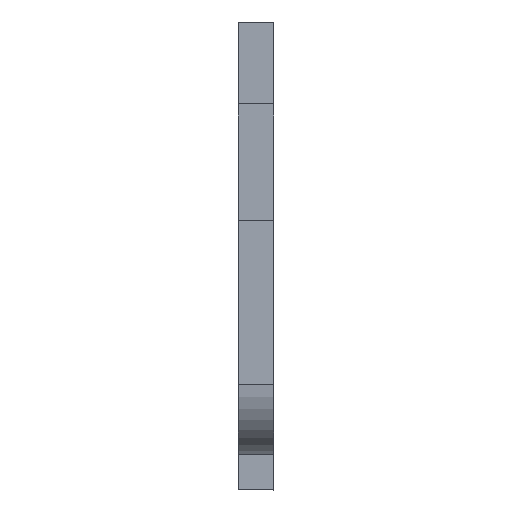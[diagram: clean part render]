
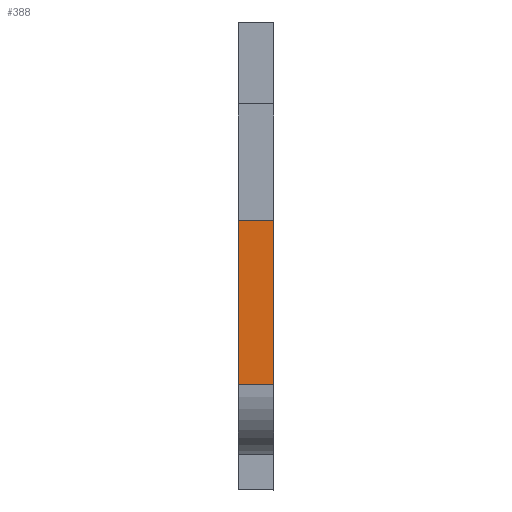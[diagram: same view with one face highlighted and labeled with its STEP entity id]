
A CAD part, left-side view. The second image highlights one B-rep face of the part: STEP entity #388.
In plain terms, the highlighted planar face has unit normal (-1, 0, 0).
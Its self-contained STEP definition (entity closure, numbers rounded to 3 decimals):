
#21 = CARTESIAN_POINT ( 'NONE',  ( -297., 3., -12.5 ) ) ;
#32 = FACE_OUTER_BOUND ( 'NONE', #724, .T. ) ;
#72 = EDGE_CURVE ( 'NONE', #668, #80, #749, .T. ) ;
#80 = VERTEX_POINT ( 'NONE', #242 ) ;
#90 = LINE ( 'NONE', #680, #491 ) ;
#100 = AXIS2_PLACEMENT_3D ( 'NONE', #392, #915, #244 ) ;
#160 = CARTESIAN_POINT ( 'NONE',  ( -297., 3., -12.5 ) ) ;
#167 = PLANE ( 'NONE',  #100 ) ;
#242 = CARTESIAN_POINT ( 'NONE',  ( -297., 0., -12.5 ) ) ;
#244 = DIRECTION ( 'NONE',  ( 0., 0., -1. ) ) ;
#388 = ADVANCED_FACE ( 'NONE', ( #32 ), #167, .F. ) ;
#390 = CARTESIAN_POINT ( 'NONE',  ( -297., 3., 18.5 ) ) ;
#392 = CARTESIAN_POINT ( 'NONE',  ( -297., 3., 18.5 ) ) ;
#406 = CARTESIAN_POINT ( 'NONE',  ( -297., 0., 1.5 ) ) ;
#422 = EDGE_CURVE ( 'NONE', #80, #931, #90, .T. ) ;
#423 = CARTESIAN_POINT ( 'NONE',  ( -297., 3., 1.5 ) ) ;
#458 = DIRECTION ( 'NONE',  ( 0., 0., 1. ) ) ;
#462 = CARTESIAN_POINT ( 'NONE',  ( -297., 0., 1.5 ) ) ;
#491 = VECTOR ( 'NONE', #826, 1000. ) ;
#492 = ORIENTED_EDGE ( 'NONE', *, *, #813, .F. ) ;
#507 = VECTOR ( 'NONE', #458, 1000. ) ;
#573 = ORIENTED_EDGE ( 'NONE', *, *, #422, .T. ) ;
#601 = DIRECTION ( 'NONE',  ( 0., -1., 0. ) ) ;
#605 = CARTESIAN_POINT ( 'NONE',  ( -297., 3., 1.5 ) ) ;
#668 = VERTEX_POINT ( 'NONE', #160 ) ;
#671 = VECTOR ( 'NONE', #601, 1000. ) ;
#680 = CARTESIAN_POINT ( 'NONE',  ( -297., 0., 18.5 ) ) ;
#696 = LINE ( 'NONE', #390, #507 ) ;
#704 = VERTEX_POINT ( 'NONE', #423 ) ;
#724 = EDGE_LOOP ( 'NONE', ( #773, #492, #865, #573 ) ) ;
#749 = LINE ( 'NONE', #21, #671 ) ;
#761 = EDGE_CURVE ( 'NONE', #704, #931, #951, .T. ) ;
#773 = ORIENTED_EDGE ( 'NONE', *, *, #761, .F. ) ;
#813 = EDGE_CURVE ( 'NONE', #668, #704, #696, .T. ) ;
#826 = DIRECTION ( 'NONE',  ( 0., 0., 1. ) ) ;
#865 = ORIENTED_EDGE ( 'NONE', *, *, #72, .T. ) ;
#915 = DIRECTION ( 'NONE',  ( 1., 0., 0. ) ) ;
#931 = VERTEX_POINT ( 'NONE', #406 ) ;
#951 = B_SPLINE_CURVE_WITH_KNOTS ( 'NONE', 1,
 ( #605, #462 ),
 .UNSPECIFIED., .F., .F.,
 ( 2, 2 ),
 ( 0., 0.115 ),
 .UNSPECIFIED. ) ;
